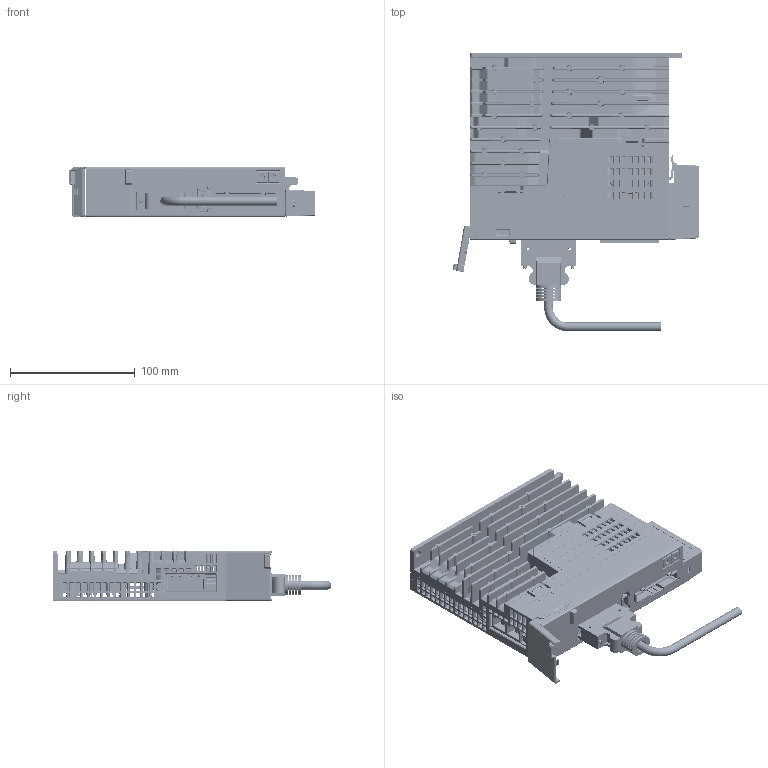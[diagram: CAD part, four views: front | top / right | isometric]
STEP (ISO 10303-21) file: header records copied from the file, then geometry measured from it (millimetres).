
FILE_DESCRIPTION((''),'2;1');
FILE_NAME('000_ASSY_ASM','2021-10-14T16:35:03',('RD0058'),(''),'CREO PARAMETRIC BY PTC INC, 2016510','CREO PARAMETRIC BY PTC INC, 2016510','');
FILE_SCHEMA(('CONFIG_CONTROL_DESIGN','SHAPE_APPEARANCE_LAYERS_GROUPS'));
Products named in the file (115): PCB; PCB2; LCD_MONITOR; SWITCH; LED-CLING; ESL-SWITCH; UID__2015_1; PLACEMENTOUTLINE-280; SUBMODEL-NOMODELFORPART_LED0603_ASM; SUBMODEL-LED0603_L16W08H06_1549_ASM; PLACEMENTOUTLINE-304; SUBMODEL-NOMODELFORPART_FINGE_1_ASM; SUBMODEL-FINGER_8X2_P220_TB_2_1_ASM; PLACEMENTOUTLINE-326; SUBMODEL-NOMODELFORPART_1608X_1_ASM; SUBMODEL-1608X4_3186176938_PART_ASM; PLACEMENTOUTLINE-348; SUBMODEL-NOMODELFORPART_PAD_M_1_ASM; SUBMODEL-PAD_MARK_D1-2_268423_1_ASM; PLACEMENTOUTLINE-370; SUBMODEL-NOMODELFORPART_0603R_1_ASM; SUBMODEL-0603R_L_2968971695_P_1_ASM; PLACEMENTOUTLINE-402; PLACEMENTOUTLINE-410; SUBMODEL-NOMODELFORPART_SW_KB_1_ASM; SUBMODEL-SW_KB_P30X90L45W45H2_1_ASM; PLACEMENTOUTLINE-434; SUBMODEL-NOMODELFORPART_SW_CO_3_ASM; SUBMODEL-SW_CODE8_P127X762L11_1_ASM; PLACEMENTOUTLINE-466; SUBMODEL-NOMODELFORPART_LED_8_1_ASM; PIN-481; PIN-489; PIN-497; PIN-505; PIN-513; PIN-521; PIN-529; PIN-537; PIN-545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
Assembly tree (333 placements, depth 9):
  000_ASSY_ASM
    ASSY_PCA_ASM
      PCB
      ASSY_PCB2_ASM
        PCB2
        LCD_MONITOR
        SWITCH  x4
        LED-CLING
        ESL-SWITCH
        FD415B_0V1_ASM
          PRODUCTROOTMODEL_1_2_3_ASM
            DESIGNROOTMODEL_1_2_3_ASM
              UID__2015_1
              SUBMODEL-LED0603_L16W08H06_1549_ASM  x2
                SUBMODEL-NOMODELFORPART_LED0603_ASM
                  PLACEMENTOUTLINE-280
              SUBMODEL-FINGER_8X2_P220_TB_2_1_ASM
                SUBMODEL-NOMODELFORPART_FINGE_1_ASM
                  PLACEMENTOUTLINE-304
              SUBMODEL-1608X4_3186176938_PART_ASM  x2
                SUBMODEL-NOMODELFORPART_1608X_1_ASM
                  PLACEMENTOUTLINE-326
              SUBMODEL-PAD_MARK_D1-2_268423_1_ASM  x2
                SUBMODEL-NOMODELFORPART_PAD_M_1_ASM
                  PLACEMENTOUTLINE-348
              SUBMODEL-0603R_L_2968971695_P_1_ASM  x12
                SUBMODEL-NOMODELFORPART_0603R_1_ASM
                  PLACEMENTOUTLINE-370
              SUBMODEL-SW_KB_P30X90L45W45H2_1_ASM  x4
                SUBMODEL-NOMODELFORPART_SW_KB_1_ASM
                  PLACEMENTOUTLINE-402
                  PLACEMENTOUTLINE-410
              SUBMODEL-SW_CODE8_P127X762L11_1_ASM
                SUBMODEL-NOMODELFORPART_SW_CO_3_ASM
                  PLACEMENTOUTLINE-434
              SUBMODEL-LED_8X5P254X762L230W_1_ASM
                SUBMODEL-NOMODELFORPART_LED_8_1_ASM
                  PLACEMENTOUTLINE-466
                PIN-481
                PIN-489
                PIN-497
                PIN-505
                PIN-513
                PIN-521
                PIN-529
                PIN-537
                PIN-545
                PIN-553
                PIN-561
                PIN-569
                PIN-577
                PIN-585
      SCSI_FEMALE1
      SCSI_MALE
      CON_1394_90
      CON_NETWORK_PORT
      R_330UF_420V  x2
      LED-CLING_POWER
      EPG-EPS-DPST-2
      EFD25
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Bounding box: 197.71 x 223.01 x 40 mm (x, y, z)
Volume: 451299.3 mm3; surface area: 330663.1 mm2
Topology: 309 solids, 312 shells, 13715 faces, 51662 edges, 49603 vertices
Faces by surface type: plane 8136, cylinder 3443, cone 1018, torus 782, bspline 288, extrusion 24, sphere 24
Entity records: 613493 total; most frequent: CARTESIAN_POINT 101981, DIRECTION 82246, ORIENTED_EDGE 61158, PRESENTATION_STYLE_ASSIGNMENT 40536, STYLED_ITEM 36695, CURVE_STYLE 34806, EDGE_CURVE 30579, VECTOR 28358
